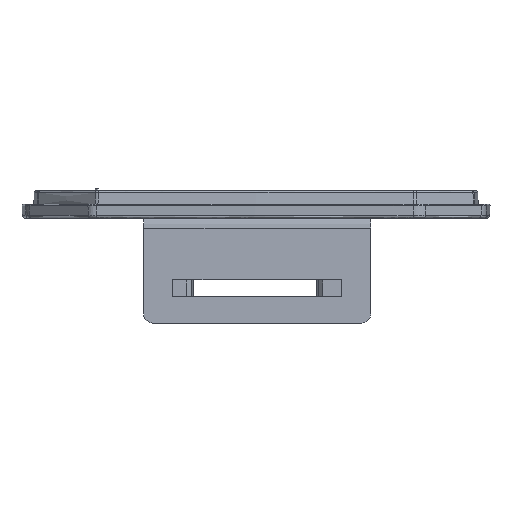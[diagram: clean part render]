
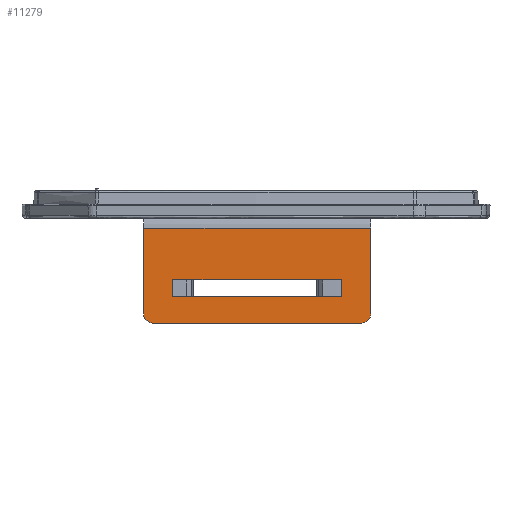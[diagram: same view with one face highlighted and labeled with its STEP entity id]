
A CAD part, front view. The second image highlights one B-rep face of the part: STEP entity #11279.
In plain terms, the highlighted planar face has unit normal (0.006, -1, 0).
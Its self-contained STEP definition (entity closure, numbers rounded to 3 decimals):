
#103 = EDGE_CURVE ( 'NONE', #3869, #11262, #10054, .T. ) ;
#208 = EDGE_CURVE ( 'NONE', #5215, #6233, #4411, .T. ) ;
#341 = EDGE_CURVE ( 'NONE', #11262, #9582, #6776, .T. ) ;
#385 = VERTEX_POINT ( 'NONE', #5054 ) ;
#850 = CARTESIAN_POINT ( 'NONE',  ( -13.099, -23.072, -2.837 ) ) ;
#960 = AXIS2_PLACEMENT_3D ( 'NONE', #10346, #3140, #1158 ) ;
#981 = VERTEX_POINT ( 'NONE', #5095 ) ;
#998 = DIRECTION ( 'NONE',  ( 0., 0., 1. ) ) ;
#1099 = DIRECTION ( 'NONE',  ( -0.006, 1., 0. ) ) ;
#1134 = EDGE_LOOP ( 'NONE', ( #9419, #8599, #6030, #12076, #10800, #9809 ) ) ;
#1158 = DIRECTION ( 'NONE',  ( -1., -0.006, 0. ) ) ;
#1377 = ORIENTED_EDGE ( 'NONE', *, *, #3581, .F. ) ;
#1513 = DIRECTION ( 'NONE',  ( -1., -0.006, 0. ) ) ;
#1558 = VERTEX_POINT ( 'NONE', #11660 ) ;
#1621 = AXIS2_PLACEMENT_3D ( 'NONE', #5984, #1099, #12043 ) ;
#1644 = DIRECTION ( 'NONE',  ( 1., 0.006, 0. ) ) ;
#1775 = CARTESIAN_POINT ( 'NONE',  ( -12.099, -23.066, -12.287 ) ) ;
#2058 = CARTESIAN_POINT ( 'NONE',  ( 11.9, -22.928, -15.9 ) ) ;
#2794 = EDGE_CURVE ( 'NONE', #9582, #1558, #3045, .T. ) ;
#2849 = VECTOR ( 'NONE', #6554, 1000. ) ;
#2921 = DIRECTION ( 'NONE',  ( 0., 0., -1. ) ) ;
#3039 = CARTESIAN_POINT ( 'NONE',  ( -13.099, -23.072, 21.408 ) ) ;
#3045 = LINE ( 'NONE', #2058, #6070 ) ;
#3087 = AXIS2_PLACEMENT_3D ( 'NONE', #1775, #10712, #1644 ) ;
#3140 = DIRECTION ( 'NONE',  ( -0.006, 1., 0. ) ) ;
#3142 = VECTOR ( 'NONE', #6418, 1000. ) ;
#3170 = CARTESIAN_POINT ( 'NONE',  ( -13.099, -23.072, -12.287 ) ) ;
#3568 = CARTESIAN_POINT ( 'NONE',  ( 11.9, -22.928, -2.837 ) ) ;
#3581 = EDGE_CURVE ( 'NONE', #6233, #5839, #7353, .T. ) ;
#3683 = FACE_BOUND ( 'NONE', #8718, .T. ) ;
#3691 = CIRCLE ( 'NONE', #960, 1. ) ;
#3869 = VERTEX_POINT ( 'NONE', #3170 ) ;
#4000 = CARTESIAN_POINT ( 'NONE',  ( -9.891, -23.053, -10.37 ) ) ;
#4050 = DIRECTION ( 'NONE',  ( 1., 0.006, 0. ) ) ;
#4411 = LINE ( 'NONE', #7527, #6072 ) ;
#4581 = VECTOR ( 'NONE', #998, 1000. ) ;
#4616 = ORIENTED_EDGE ( 'NONE', *, *, #12496, .F. ) ;
#4885 = LINE ( 'NONE', #6942, #2849 ) ;
#5050 = EDGE_CURVE ( 'NONE', #981, #12605, #4885, .T. ) ;
#5054 = CARTESIAN_POINT ( 'NONE',  ( 8.692, -22.946, -10.37 ) ) ;
#5095 = CARTESIAN_POINT ( 'NONE',  ( 10.9, -22.933, -13.287 ) ) ;
#5215 = VERTEX_POINT ( 'NONE', #10931 ) ;
#5839 = VERTEX_POINT ( 'NONE', #4000 ) ;
#5984 = CARTESIAN_POINT ( 'NONE',  ( -13.099, -23.072, -16.527 ) ) ;
#6030 = ORIENTED_EDGE ( 'NONE', *, *, #13067, .F. ) ;
#6056 = VECTOR ( 'NONE', #11479, 1000. ) ;
#6070 = VECTOR ( 'NONE', #2921, 1000. ) ;
#6072 = VECTOR ( 'NONE', #1513, 1000. ) ;
#6233 = VERTEX_POINT ( 'NONE', #6758 ) ;
#6418 = DIRECTION ( 'NONE',  ( 0., 0., -1. ) ) ;
#6484 = CARTESIAN_POINT ( 'NONE',  ( 8.692, -22.946, -16.527 ) ) ;
#6554 = DIRECTION ( 'NONE',  ( -1., -0.006, 0. ) ) ;
#6758 = CARTESIAN_POINT ( 'NONE',  ( -9.891, -23.053, -8.496 ) ) ;
#6776 = LINE ( 'NONE', #10836, #10952 ) ;
#6903 = CARTESIAN_POINT ( 'NONE',  ( -13.099, -23.072, -10.37 ) ) ;
#6942 = CARTESIAN_POINT ( 'NONE',  ( -13.099, -23.072, -13.287 ) ) ;
#7043 = PLANE ( 'NONE',  #1621 ) ;
#7353 = LINE ( 'NONE', #7554, #3142 ) ;
#7527 = CARTESIAN_POINT ( 'NONE',  ( -13.099, -23.072, -8.496 ) ) ;
#7554 = CARTESIAN_POINT ( 'NONE',  ( -9.891, -23.053, -16.527 ) ) ;
#8430 = EDGE_CURVE ( 'NONE', #1558, #981, #3691, .T. ) ;
#8478 = LINE ( 'NONE', #6484, #6056 ) ;
#8599 = ORIENTED_EDGE ( 'NONE', *, *, #103, .F. ) ;
#8718 = EDGE_LOOP ( 'NONE', ( #1377, #10635, #4616, #12586 ) ) ;
#8799 = CIRCLE ( 'NONE', #3087, 1. ) ;
#8839 = DIRECTION ( 'NONE',  ( 1., 0.006, 0. ) ) ;
#9419 = ORIENTED_EDGE ( 'NONE', *, *, #341, .F. ) ;
#9582 = VERTEX_POINT ( 'NONE', #3568 ) ;
#9809 = ORIENTED_EDGE ( 'NONE', *, *, #2794, .F. ) ;
#10010 = LINE ( 'NONE', #6903, #12819 ) ;
#10054 = LINE ( 'NONE', #3039, #4581 ) ;
#10346 = CARTESIAN_POINT ( 'NONE',  ( 10.9, -22.933, -12.287 ) ) ;
#10635 = ORIENTED_EDGE ( 'NONE', *, *, #208, .F. ) ;
#10712 = DIRECTION ( 'NONE',  ( -0.006, 1., 0. ) ) ;
#10800 = ORIENTED_EDGE ( 'NONE', *, *, #8430, .F. ) ;
#10836 = CARTESIAN_POINT ( 'NONE',  ( -13.099, -23.072, -2.837 ) ) ;
#10931 = CARTESIAN_POINT ( 'NONE',  ( 8.692, -22.946, -8.496 ) ) ;
#10952 = VECTOR ( 'NONE', #8839, 1000. ) ;
#11262 = VERTEX_POINT ( 'NONE', #850 ) ;
#11279 = ADVANCED_FACE ( 'NONE', ( #12761, #3683 ), #7043, .F. ) ;
#11479 = DIRECTION ( 'NONE',  ( 0., 0., 1. ) ) ;
#11660 = CARTESIAN_POINT ( 'NONE',  ( 11.9, -22.928, -12.287 ) ) ;
#11849 = EDGE_CURVE ( 'NONE', #5839, #385, #10010, .T. ) ;
#12043 = DIRECTION ( 'NONE',  ( -1., -0.006, 0. ) ) ;
#12076 = ORIENTED_EDGE ( 'NONE', *, *, #5050, .F. ) ;
#12496 = EDGE_CURVE ( 'NONE', #385, #5215, #8478, .T. ) ;
#12586 = ORIENTED_EDGE ( 'NONE', *, *, #11849, .F. ) ;
#12605 = VERTEX_POINT ( 'NONE', #12869 ) ;
#12761 = FACE_OUTER_BOUND ( 'NONE', #1134, .T. ) ;
#12819 = VECTOR ( 'NONE', #4050, 1000. ) ;
#12869 = CARTESIAN_POINT ( 'NONE',  ( -12.099, -23.066, -13.287 ) ) ;
#13067 = EDGE_CURVE ( 'NONE', #12605, #3869, #8799, .T. ) ;
